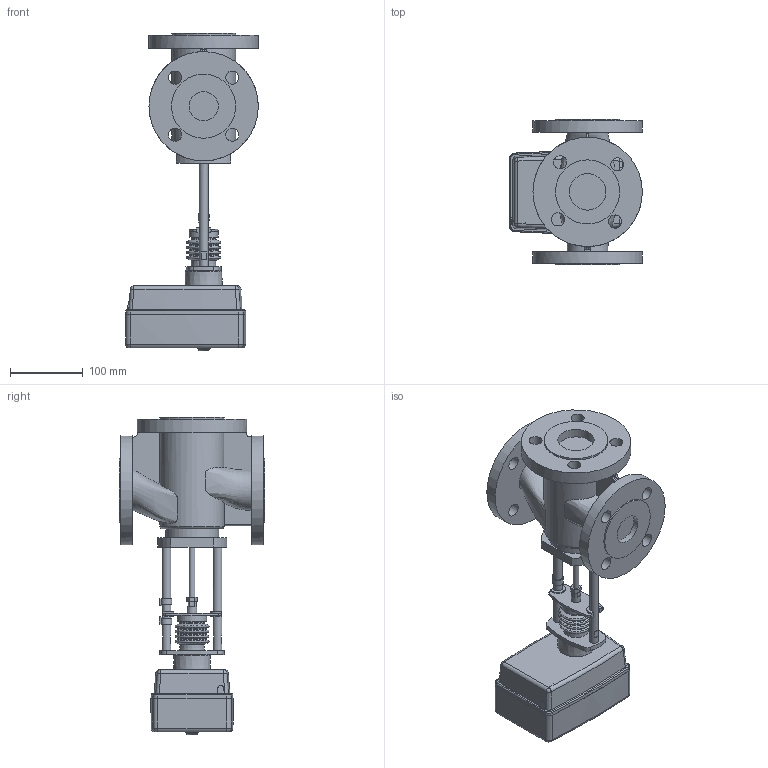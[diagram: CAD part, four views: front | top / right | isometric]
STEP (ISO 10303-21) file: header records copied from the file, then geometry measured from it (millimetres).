
FILE_DESCRIPTION(/* description */ ('Unknown'),/* implementation_level */ '2;1');
FILE_NAME(/* name */ 'TRV-3-40-101(модель)',/* time_stamp */ '2021-11-23T15:30:45+03:00',/* author */ ('Unknown'),/* organization */ ('Unknown'),/* preprocessor_version */ 'ST-DEVELOPER v16.7',/* originating_system */ 'DEX',/* authorisation */ $);
FILE_SCHEMA (('AUTOMOTIVE_DESIGN {1 0 10303 214 3 1 1}'));
Length unit declared in the file: millimetre
Products named in the file (1): TRV-3-40-101(斁麧錪)
Bounding box: 181.96 x 200 x 435.41 mm (x, y, z)
Volume: 3658583.1 mm3; surface area: 314669.7 mm2
Topology: 1 solids, 1 shells, 344 faces, 901 edges, 582 vertices
Faces by surface type: plane 178, cylinder 89, torus 40, cone 22, bspline 11, sphere 4
Full cylindrical faces by diameter (mm): 8 x1, 12.002 x4, 13 x1, 15 x1, 18 x12, 33.4 x1, 33.972 x1, 40 x3, 50 x1, 72.828 x1, 88 x4, 150 x3
Entity records: 16059 total; most frequent: CARTESIAN_POINT 5501, DIRECTION 1723, ORIENTED_EDGE 1594, EDGE_CURVE 797, AXIS2_PLACEMENT_3D 667, VERTEX_POINT 541, EDGE_LOOP 462, FACE_BOUND 462
